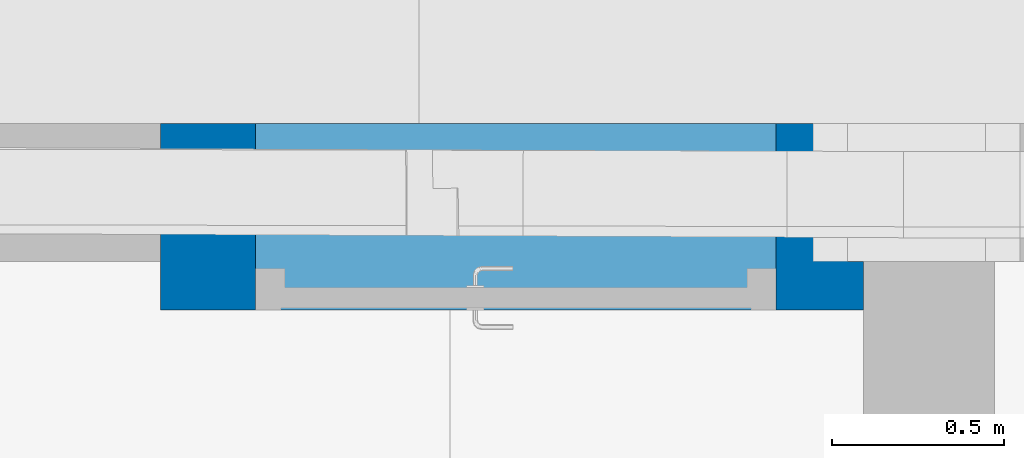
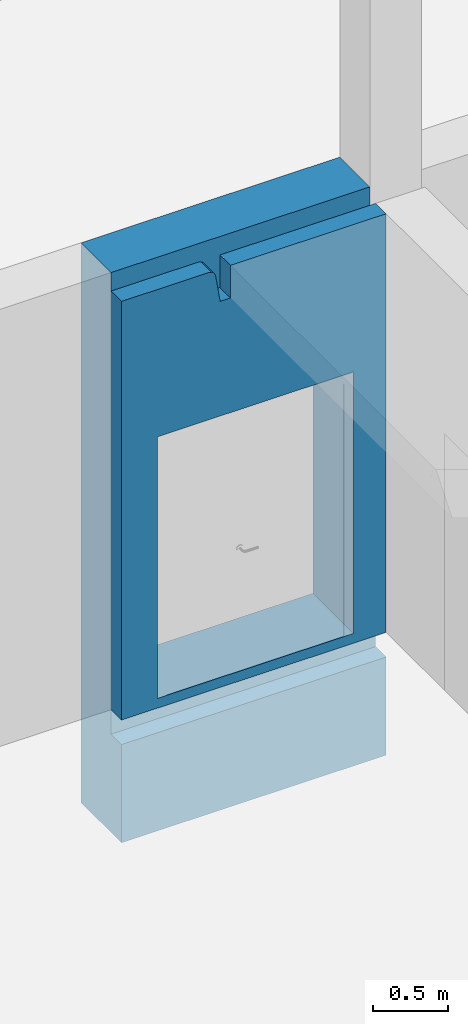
# One storey, part 117 of 301: 1 wall, 1 opening.
"""IFC2X3 building model written with IfcOpenShell, lengths in millimetres."""

from ifc_helpers import new_model, entity, si_unit, converted_unit, derived_unit, money_unit, direction, frame, origin_with_axes, place, context, subcontext, project, spatial, faceted_brep, material, type_object, element, save


model = new_model("IFC2X3")

# Units and contexts
model_context = context("Model", 3, precision=0.01, world=origin_with_axes(), true_north=direction((0.0, 1.0)))
body_context = subcontext(model_context, "Body", "Model", "MODEL_VIEW")
ifc_project = project(units=[si_unit("LENGTHUNIT", "METRE", prefix="MILLI"), si_unit("AREAUNIT", "SQUARE_METRE"), si_unit("VOLUMEUNIT", "CUBIC_METRE"), converted_unit("PLANEANGLEUNIT", "DEGREE", entity("IfcPlaneAngleMeasure", 0.0174532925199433), si_unit("PLANEANGLEUNIT", "RADIAN"), dimensions=[0, 0, 0, 0, 0, 0, 0]), money_unit("EUR"), converted_unit("TIMEUNIT", "Year", entity("IfcTimeMeasure", 31557600.0), si_unit("TIMEUNIT", "SECOND"), dimensions=[0, 0, 1, 0, 0, 0, 0]), si_unit("MASSUNIT", "GRAM", prefix="KILO"), si_unit("THERMODYNAMICTEMPERATUREUNIT", "DEGREE_CELSIUS"), si_unit("LUMINOUSINTENSITYUNIT", "LUMEN"), si_unit("ENERGYUNIT", "JOULE", prefix="MEGA"), derived_unit("THERMALCONDUCTANCEUNIT", [(si_unit("POWERUNIT", "WATT"), 1), (si_unit("LENGTHUNIT", "METRE"), -1), (si_unit("THERMODYNAMICTEMPERATUREUNIT", "KELVIN"), -1)]), derived_unit("SPECIFICHEATCAPACITYUNIT", [(si_unit("ENERGYUNIT", "JOULE"), 1), (si_unit("MASSUNIT", "GRAM", prefix="KILO"), -1), (si_unit("THERMODYNAMICTEMPERATUREUNIT", "KELVIN"), -1)]), derived_unit("MASSDENSITYUNIT", [(si_unit("MASSUNIT", "GRAM", prefix="KILO"), 1), (si_unit("VOLUMEUNIT", "CUBIC_METRE"), -1)])], contexts=[model_context])

# Site, building, storey
site_placement = place(None, frame((0.0, 0.0, 8650.0), z_axis=(0.0, 0.0, 1.0), x_axis=(1.0, 0.0, 0.0)))
site = spatial("IfcSite", under=ifc_project, at=site_placement, Name="43301:001:0844", CompositionType="ELEMENT")
building_placement = place(site_placement, origin_with_axes())
building = spatial("IfcBuilding", under=site, at=building_placement, Name="Kuressaare Ametikooli tuulikute mehaanikute õppekorpus", CompositionType="ELEMENT")
storey_placement = place(building_placement, origin_with_axes())
storey = spatial("IfcBuildingStorey", under=building, at=storey_placement, Name="1.korrus", CompositionType="ELEMENT", Elevation=0.0)

# Wall, opening
ifc_material = material(Name="GENEERILINE - KONSTRUKTRIOON")
wall_type = type_object("IfcWallType", Name="GENEERILINE - KONSTRUKTRIOON 540", PredefinedType="NOTDEFINED")
wall_placement = place(storey_placement, frame((95547.90111654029, 37705.7716648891, -1000.0), z_axis=(0.0, 0.0, 1.0), x_axis=(-1.0, 0.0, 0.0)))
wall = element("IfcWall", 1, at=wall_placement, inside=storey, type_object=wall_type, material=ifc_material, context=body_context, shape_type="Brep", body=[
    faceted_brep([(1200.148698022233, 0.0, 4144.999865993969), (1279.34522439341, 0.0, 4144.999865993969), (1313.321907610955, 0.0, 4360.231605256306), (1318.641745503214, 0.0, 4379.304641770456), (1330.375739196, 0.0, 4395.254400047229), (1347.000693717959, 0.0, 4406.010434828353), (1365.538398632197, 0.0, 4410.0), (2039.336011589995, 0.0, 4410.0), (2039.336011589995, 0.0, 1000.0), (0.0, 0.0, 1000.0), (0.0, 0.0, 4410.0), (1200.148698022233, 0.0, 4410.0), (1763.222428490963, 0.0, 1080.0), (1763.222428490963, 0.0, 3210.0), (253.2224284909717, 0.0, 3210.0), (253.2224284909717, 0.0, 1080.0), (1279.34522439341, -140.0000000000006, 4144.999865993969), (1200.148698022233, -140.0000000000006, 4144.999865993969), (1313.321907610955, -140.0000000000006, 4360.231605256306), (1318.641745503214, -140.0000000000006, 4379.304641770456), (1330.375739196, -140.0000000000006, 4395.254400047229), (1347.000693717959, -140.0000000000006, 4406.010434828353), (1365.538398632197, -140.0000000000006, 4410.0), (2039.336011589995, -140.0000000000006, 4410.0), (2039.336011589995, -140.0000000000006, 4560.000000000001), (2039.336011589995, -539.9999999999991, 4560.000000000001), (2039.336011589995, -539.9999999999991, 0.0), (2039.336011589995, 0.0, 0.0), (2039.336011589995, 0.0, 799.9999999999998), (2039.336011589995, -140.0000000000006, 799.9999999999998), (2039.336011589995, -140.0000000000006, 1000.0), (0.0, -140.0000000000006, 1000.0), (0.0, 0.0, 799.9999999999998), (0.0, 0.0, 0.0), (0.0, -539.9999999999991, 0.0), (0.0, -539.9999999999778, 1130.0), (0.0, -139.9999999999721, 1130.0), (0.0, -139.9999999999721, 4410.0), (0.0, -140.0000000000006, 799.9999999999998), (45.85254687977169, -139.9999999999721, 4410.0), (1200.148698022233, -140.0000000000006, 4410.0), (1763.222428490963, -539.9999999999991, 1080.0), (1763.222428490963, -539.9999999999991, 3210.0), (253.2224284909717, -539.9999999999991, 3210.0), (253.2224284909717, -539.9999999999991, 1080.0), (45.85254687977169, -139.9999999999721, 4560.000000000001), (45.85254687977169, -539.9999999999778, 4560.000000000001), (45.85254687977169, -539.9999999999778, 1130.0), (45.85254687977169, -139.9999999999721, 1130.0)], [[[0, 1, 2, 3, 4, 5, 6, 7, 8, 9, 10, 11], [12, 13, 14, 15]], [[16, 1, 0, 17]], [[18, 2, 1, 16]], [[19, 3, 2, 18]], [[20, 4, 3, 19]], [[21, 5, 4, 20]], [[22, 6, 5, 21]], [[7, 6, 22, 23]], [[24, 25, 26, 27, 28, 29, 30, 8, 7, 23]], [[8, 30, 31, 9]], [[32, 33, 34, 35, 36, 37, 10, 9, 31, 38]], [[39, 40, 11, 10, 37]], [[0, 11, 40, 17]], [[41, 42, 13, 12]], [[42, 43, 14, 13]], [[43, 44, 15, 14]], [[44, 41, 12, 15]], [[18, 16, 17, 40, 39, 45, 24, 23, 22, 21, 20, 19]], [[45, 46, 25, 24]], [[35, 34, 26, 25, 46, 47], [41, 44, 43, 42]], [[33, 27, 26, 34]], [[27, 33, 32, 28]], [[29, 28, 32, 38]], [[30, 29, 38, 31]], [[36, 35, 47, 48]], [[39, 37, 36, 48]], [[46, 45, 39, 48, 47]]]),
])
opening_placement = place(wall_placement, frame((1008.222428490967, 0.0, 1080.0), z_axis=(0.0, 0.0, 1.0), x_axis=(1.0, 0.0, 0.0)))
element("IfcOpeningElement", 2, at=opening_placement, cuts=wall, context=body_context, shape_type="Brep", body=[
    faceted_brep([(-754.9999999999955, -540.9999999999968, 2130.0), (-754.9999999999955, -540.9999999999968, 0.0), (754.9999999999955, -540.9999999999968, 0.0), (754.9999999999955, -540.9999999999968, 2130.0), (-754.9999999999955, 0.9999999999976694, 2130.0), (-754.9999999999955, 0.9999999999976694, 0.0), (754.9999999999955, 0.9999999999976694, 0.0), (754.9999999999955, 0.9999999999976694, 2130.0)], [[[0, 1, 2, 3]], [[4, 5, 1, 0]], [[5, 6, 2, 1]], [[6, 7, 3, 2]], [[7, 4, 0, 3]], [[6, 5, 4, 7]]]),
])

save(model, "model.ifc")
